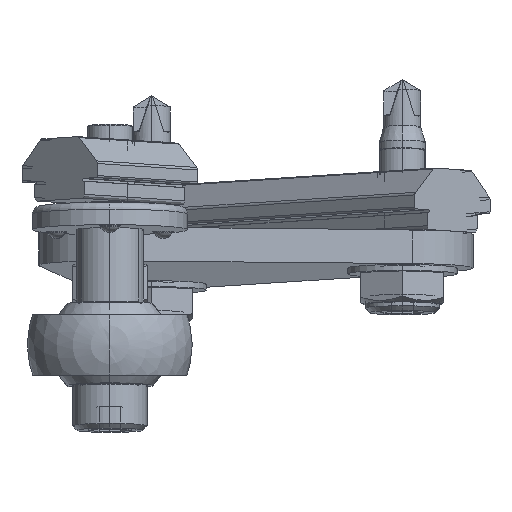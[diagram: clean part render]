
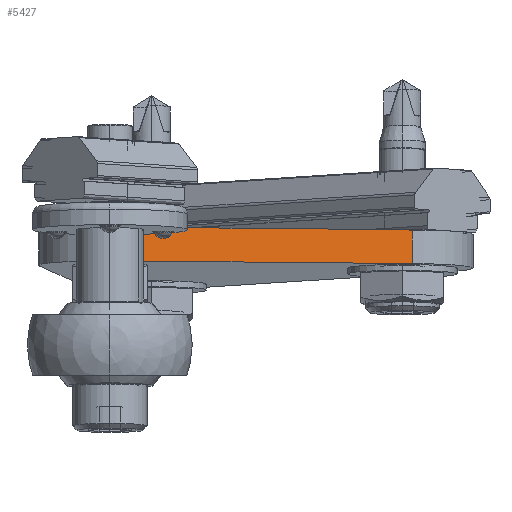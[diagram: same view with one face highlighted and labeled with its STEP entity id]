
A CAD part, front view. The second image highlights one B-rep face of the part: STEP entity #5427.
In plain terms, the highlighted planar face has unit normal (0.141, -0.988, 0.064) as drawn and (0.6, -0.8, 0) by its records, which use the part's own axes.
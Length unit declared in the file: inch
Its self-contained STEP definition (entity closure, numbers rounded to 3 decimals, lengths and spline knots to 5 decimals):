
#5099=DIRECTION('',(0.8,0.6,0.));
#5100=VECTOR('',#5099,1.5625);
#5101=CARTESIAN_POINT('',(0.225,-1.2375,0.));
#5102=LINE('',#5101,#5100);
#5164=DIRECTION('',(0.,0.,1.));
#5165=VECTOR('',#5164,0.179);
#5166=CARTESIAN_POINT('',(1.475,-0.3,0.));
#5167=LINE('',#5166,#5165);
#5176=DIRECTION('',(0.,0.,-1.));
#5177=VECTOR('',#5176,0.179);
#5178=CARTESIAN_POINT('',(0.225,-1.2375,0.179));
#5179=LINE('',#5178,#5177);
#5199=DIRECTION('',(-0.8,-0.6,0.));
#5200=VECTOR('',#5199,1.5625);
#5201=CARTESIAN_POINT('',(1.475,-0.3,0.179));
#5202=LINE('',#5201,#5200);
#5266=CARTESIAN_POINT('',(0.225,-1.2375,0.));
#5267=VERTEX_POINT('',#5266);
#5268=CARTESIAN_POINT('',(1.475,-0.3,0.));
#5269=VERTEX_POINT('',#5268);
#5296=CARTESIAN_POINT('',(1.475,-0.3,0.179));
#5297=VERTEX_POINT('',#5296);
#5300=CARTESIAN_POINT('',(0.225,-1.2375,0.179));
#5301=VERTEX_POINT('',#5300);
#5414=CARTESIAN_POINT('',(0.225,-1.2375,0.));
#5415=DIRECTION('',(0.6,-0.8,0.));
#5416=DIRECTION('',(0.8,0.6,0.));
#5417=AXIS2_PLACEMENT_3D('',#5414,#5415,#5416);
#5418=PLANE('',#5417);
#5419=ORIENTED_EDGE('',*,*,#5323,.F.);
#5421=ORIENTED_EDGE('',*,*,#5420,.F.);
#5423=ORIENTED_EDGE('',*,*,#5422,.F.);
#5424=ORIENTED_EDGE('',*,*,#5404,.F.);
#5425=EDGE_LOOP('',(#5419,#5421,#5423,#5424));
#5426=FACE_OUTER_BOUND('',#5425,.F.);
#5323=EDGE_CURVE('',#5267,#5269,#5102,.T.);
#5404=EDGE_CURVE('',#5269,#5297,#5167,.T.);
#5420=EDGE_CURVE('',#5301,#5267,#5179,.T.);
#5422=EDGE_CURVE('',#5297,#5301,#5202,.T.);
#5427=ADVANCED_FACE('',(#5426),#5418,.T.);
